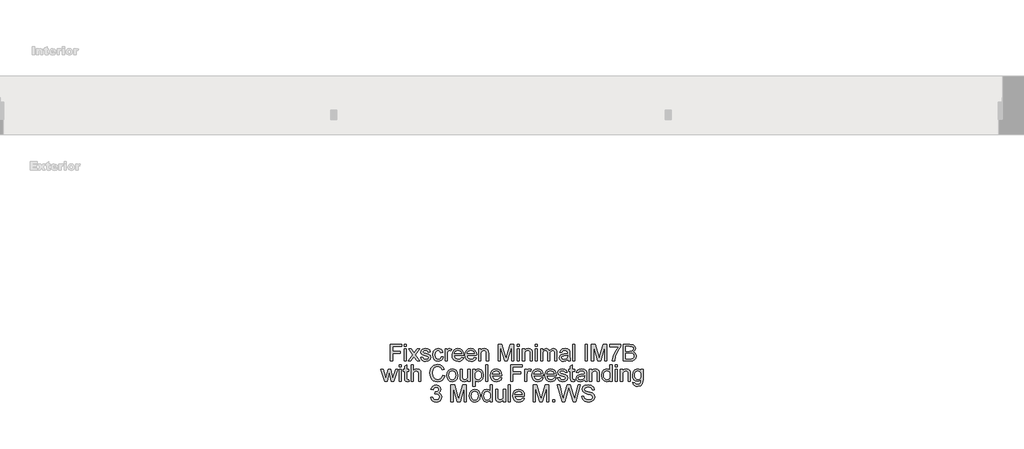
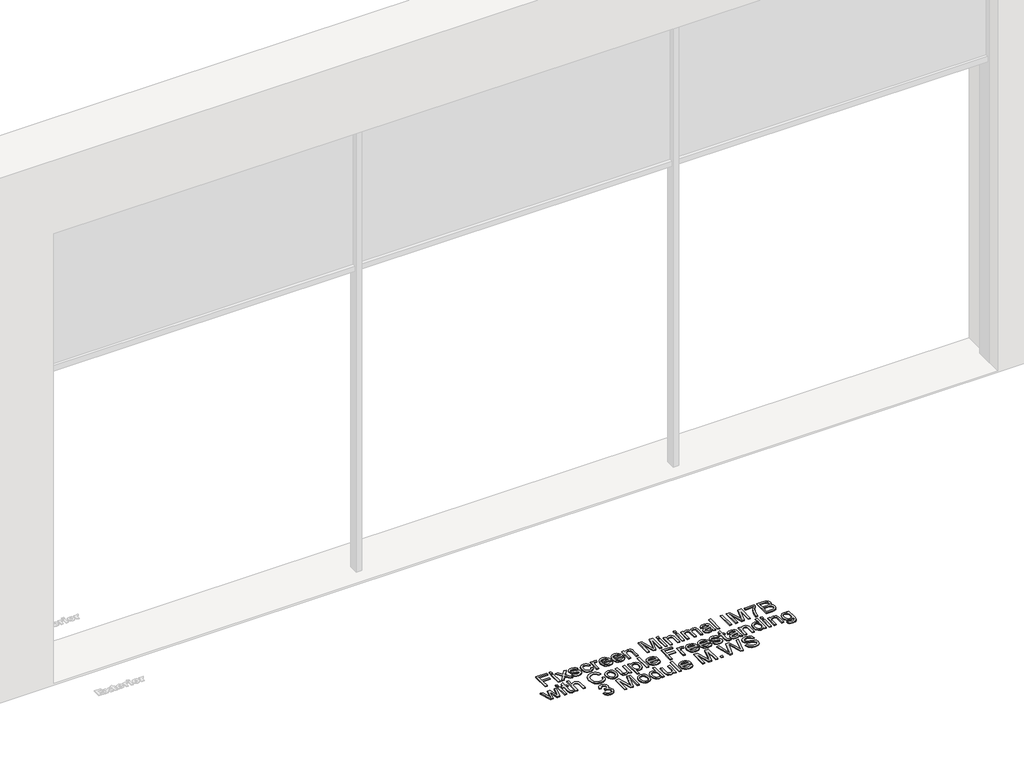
# One storey, part 4 of 14: 1 proxy.
"""IFC4 building model written with IfcOpenShell, lengths in millimetres."""

from ifc_helpers import new_model, si_unit, origin, origin_with_axes, place, context, project, spatial, polyline, outline, extrude, element, save

model = new_model("IFC4")

# Units and contexts
model_context = context("Model", 3, world=origin())
ifc_project = project(units=[si_unit("LENGTHUNIT", "METRE", prefix="MILLI")], contexts=[model_context])

# Site, building, storey
site = spatial("IfcSite", under=ifc_project)
building = spatial("IfcBuilding", under=site)
storey = spatial("IfcBuildingStorey", under=building, Name="Fixscreen Mini CF Overview Top", Elevation=0.0)

# Proxy
placement = place(None, origin())
element("IfcBuildingElementProxy", 1, Name="100mm Arial", ObjectType="100mm Arial", at=placement, inside=storey, context=model_context, shape_type="SweptSolid", body=[
    extrude(outline(polyline([(294.8320577, -2523.9021098), (294.8320577, -2423.4457997), (362.3261411, -2423.4457997), (362.3261411, -2436.0028384), (307.3890965, -2436.0028384), (307.3890965, -2465.8258055), (354.4779918, -2465.8258055), (354.4779918, -2478.3828443), (307.3890965, -2478.3828443), (307.3890965, -2523.9021098), (294.8320577, -2523.9021098)])), origin_with_axes(), (0.0, 0.0, 1.0), 5.0),
    extrude(outline(polyline([(378.0224395, -2523.9021098), (378.0224395, -2450.129507), (390.5794783, -2450.129507), (390.5794783, -2523.9021098), (378.0224395, -2523.9021098)])), origin_with_axes(), (0.0, 0.0, 1.0), 5.0),
    extrude(outline(polyline([(378.0224395, -2436.0028384), (378.0224395, -2423.4457997), (390.5794783, -2423.4457997), (390.5794783, -2436.0028384), (378.0224395, -2436.0028384)])), origin_with_axes(), (0.0, 0.0, 1.0), 5.0),
    extrude(outline(polyline([(401.5668872, -2523.9021098), (428.3977474, -2486.8196047), (403.1365171, -2450.129507), (418.2442043, -2450.129507), (430.4333611, -2467.7878428), (436.1232693, -2476.1265014), (441.052888, -2469.3084217), (454.934302, -2450.129507), (470.0419893, -2450.129507), (443.5054347, -2486.8196047), (469.0609706, -2523.9021098), (453.9532833, -2523.9021098), (438.5758159, -2501.6084609), (435.7553873, -2497.5372335), (416.6745745, -2523.9021098), (401.5668872, -2523.9021098)])), origin_with_axes(), (0.0, 0.0, 1.0), 5.0),
    extrude(outline(polyline([(475.33949, -2501.927292), (487.8965288, -2500.3576621), (493.7090643, -2509.6773393), (507.0263925, -2512.9147009), (519.8286859, -2509.9471195), (523.9980152, -2502.981887), (519.8041605, -2497.3410298), (506.8792397, -2493.7603117), (487.9701052, -2487.6166824), (479.7172857, -2480.4429835), (476.9091198, -2470.3139659), (479.1654627, -2460.9575004), (485.3213548, -2453.808327), (493.3043941, -2450.0927188), (504.107862, -2448.5598772), (519.3872275, -2451.0246866), (529.0993122, -2457.6956134), (533.4157943, -2468.9650652), (520.8587555, -2470.534695), (516.1376033, -2463.6062508), (505.0888807, -2461.116916), (493.0714022, -2463.4958862), (489.4661586, -2469.0386416), (490.9622121, -2472.6929361), (495.6465761, -2475.4643138), (506.4623068, -2478.1375896), (524.8931947, -2484.048227), (533.4525825, -2490.7436793), (536.555054, -2501.6575118), (532.9130222, -2513.6749903), (522.4038599, -2522.3937936), (506.8547142, -2525.4717397), (494.1934422, -2523.9879489), (484.9534728, -2519.5365768), (478.785318, -2512.1666742), (475.33949, -2501.927292)])), origin_with_axes(), (0.0, 0.0, 1.0), 5.0),
    extrude(outline(polyline([(597.770618, -2497.2184024), (610.3276568, -2498.7880323), (606.8266464, -2509.9563165), (600.2476901, -2518.3961426), (591.2100557, -2523.7028404), (580.3330114, -2525.4717397), (566.9758293, -2523.0038646), (556.5310463, -2515.6002395), (549.7896088, -2503.5858266), (547.5424629, -2487.2855886), (551.3806984, -2466.4266794), (563.0793458, -2453.0235121), (580.1613332, -2448.5598772), (590.771663, -2450.0927188), (599.2544087, -2454.6912438), (605.33979, -2462.1101974), (608.7580269, -2472.1043249), (596.2009881, -2473.6739547), (590.3761899, -2464.2684384), (580.259435, -2461.116916), (572.1445713, -2462.6681517), (565.7035707, -2467.321859), (561.5005189, -2475.3294237), (560.0995017, -2486.942232), (561.4698621, -2498.7113902), (565.5809434, -2506.7465461), (571.905448, -2511.3726622), (579.9160785, -2512.9147009), (591.749616, -2509.0642027), (597.770618, -2497.2184024)])), origin_with_axes(), (0.0, 0.0, 1.0), 5.0),
    extrude(outline(polyline([(621.3150657, -2523.9021098), (621.3150657, -2450.129507), (632.3024746, -2450.129507), (632.3024746, -2461.0433396), (640.1015729, -2450.9878984), (647.9497221, -2448.5598772), (660.5558118, -2452.4349009), (656.3619571, -2463.6920899), (647.5327892, -2461.116916), (640.4326667, -2463.5939881), (635.9077182, -2470.4611186), (633.8721044, -2485.1273475), (633.8721044, -2523.9021098), (621.3150657, -2523.9021098)])), origin_with_axes(), (0.0, 0.0, 1.0), 5.0),
    extrude(outline(polyline([(720.0545932, -2501.927292), (732.3663773, -2503.4969218), (727.9303336, -2512.7736795), (720.8516708, -2519.7082551), (711.2898046, -2524.0308685), (699.4041505, -2525.4717397), (684.6704766, -2522.9854705), (673.3335798, -2515.5266631), (666.1046986, -2503.5796953), (663.6950715, -2487.6289451), (666.1292241, -2471.1417003), (673.4316817, -2458.8115221), (684.6152943, -2451.1227884), (698.692912, -2448.5598772), (712.332137, -2451.1166571), (723.2306411, -2458.7869967), (730.3767488, -2471.0926494), (732.7587848, -2487.5553687), (732.6852084, -2490.939883), (676.2521103, -2490.939883), (678.4256797, -2500.339268), (683.4748601, -2507.2493182), (690.7619893, -2511.4983552), (699.6494052, -2512.9147009), (711.9611893, -2510.290476), (720.0545932, -2501.927292)]), holes=[polyline([(676.2521103, -2478.3828443), (720.201746, -2478.3828443), (715.1740254, -2467.0030279), (707.8531737, -2462.588444), (698.6438611, -2461.116916), (683.1805545, -2465.8135428), (678.3153151, -2471.3041816), (676.2521103, -2478.3828443)])]), origin_with_axes(), (0.0, 0.0, 1.0), 5.0),
    extrude(outline(polyline([(796.9664556, -2501.927292), (809.2782397, -2503.4969218), (804.842196, -2512.7736795), (797.7635333, -2519.7082551), (788.2016671, -2524.0308685), (776.316013, -2525.4717397), (761.5823391, -2522.9854705), (750.2454423, -2515.5266631), (743.016561, -2503.5796953), (740.606934, -2487.6289451), (743.0410865, -2471.1417003), (750.3435441, -2458.8115221), (761.5271568, -2451.1227884), (775.6047745, -2448.5598772), (789.2439994, -2451.1166571), (800.1425035, -2458.7869967), (807.2886113, -2471.0926494), (809.6706472, -2487.5553687), (809.5970708, -2490.939883), (753.1639728, -2490.939883), (755.3375422, -2500.339268), (760.3867226, -2507.2493182), (767.6738518, -2511.4983552), (776.5612676, -2512.9147009), (788.8730517, -2510.290476), (796.9664556, -2501.927292)]), holes=[polyline([(753.1639728, -2478.3828443), (797.1136084, -2478.3828443), (792.0858878, -2467.0030279), (784.7650361, -2462.588444), (775.5557235, -2461.116916), (760.092417, -2465.8135428), (755.2271776, -2471.3041816), (753.1639728, -2478.3828443)])]), origin_with_axes(), (0.0, 0.0, 1.0), 5.0),
    extrude(outline(polyline([(822.227686, -2523.9021098), (822.227686, -2450.129507), (834.7847247, -2450.129507), (834.7847247, -2460.4302029), (844.3864448, -2451.5274586), (857.4953066, -2448.5598772), (869.3533696, -2450.9511102), (877.4467735, -2457.2296296), (881.2114325, -2466.4634676), (881.8736201, -2478.6035735), (881.8736201, -2523.9021098), (869.3165814, -2523.9021098), (869.3165814, -2480.2958307), (867.8695788, -2469.1857944), (862.7560191, -2463.3119452), (854.1353177, -2461.116916), (840.5114211, -2466.0465347), (836.2163988, -2473.1895768), (834.7847247, -2484.7594655), (834.7847247, -2523.9021098), (822.227686, -2523.9021098)])), origin_with_axes(), (0.0, 0.0, 1.0), 5.0),
    extrude(outline(polyline([(939.9499244, -2523.9021098), (939.9499244, -2423.4457997), (961.5568603, -2423.4457997), (982.1092011, -2494.250821), (986.2540049, -2509.0396772), (990.7421652, -2493.0245477), (1010.9511495, -2423.4457997), (1032.5580854, -2423.4457997), (1032.5580854, -2523.9021098), (1020.0010466, -2523.9021098), (1020.0010466, -2436.0028384), (994.7643417, -2523.9021098), (977.7436681, -2523.9021098), (952.5069632, -2436.0028384), (952.5069632, -2523.9021098), (939.9499244, -2523.9021098)])), origin_with_axes(), (0.0, 0.0, 1.0), 5.0),
    extrude(outline(polyline([(1052.9632734, -2436.0028384), (1052.9632734, -2423.4457997), (1065.5203121, -2423.4457997), (1065.5203121, -2436.0028384), (1052.9632734, -2436.0028384)])), origin_with_axes(), (0.0, 0.0, 1.0), 5.0),
    extrude(outline(polyline([(1052.9632734, -2523.9021098), (1052.9632734, -2450.129507), (1065.5203121, -2450.129507), (1065.5203121, -2523.9021098), (1052.9632734, -2523.9021098)])), origin_with_axes(), (0.0, 0.0, 1.0), 5.0),
    extrude(outline(polyline([(1084.3558703, -2523.9021098), (1084.3558703, -2450.129507), (1096.912909, -2450.129507), (1096.912909, -2460.4302029), (1106.5146291, -2451.5274586), (1119.6234909, -2448.5598772), (1131.4815539, -2450.9511102), (1139.5749578, -2457.2296296), (1143.3396168, -2466.4634676), (1144.0018044, -2478.6035735), (1144.0018044, -2523.9021098), (1131.4447657, -2523.9021098), (1131.4447657, -2480.2958307), (1129.9977631, -2469.1857944), (1124.8842034, -2463.3119452), (1116.263502, -2461.116916), (1102.6396054, -2466.0465347), (1098.3445831, -2473.1895768), (1096.912909, -2484.7594655), (1096.912909, -2523.9021098), (1084.3558703, -2523.9021098)])), origin_with_axes(), (0.0, 0.0, 1.0), 5.0),
    extrude(outline(polyline([(1161.2677327, -2523.9021098), (1161.2677327, -2450.129507), (1173.8247715, -2450.129507), (1173.8247715, -2523.9021098), (1161.2677327, -2523.9021098)])), origin_with_axes(), (0.0, 0.0, 1.0), 5.0),
    extrude(outline(polyline([(1161.2677327, -2436.0028384), (1161.2677327, -2423.4457997), (1173.8247715, -2423.4457997), (1173.8247715, -2436.0028384), (1161.2677327, -2436.0028384)])), origin_with_axes(), (0.0, 0.0, 1.0), 5.0),
    extrude(outline(polyline([(1192.6603297, -2523.9021098), (1192.6603297, -2450.129507), (1205.2173684, -2450.129507), (1205.2173684, -2462.2696129), (1213.8503326, -2452.3245363), (1226.1375912, -2448.5598772), (1238.7191555, -2452.3981127), (1245.635337, -2463.1525297), (1255.4332608, -2452.2080403), (1267.8063585, -2448.5598772), (1277.2455974, -2450.0773904), (1284.2261583, -2454.6299301), (1288.5395746, -2462.3401236), (1289.9773801, -2473.3305982), (1289.9773801, -2523.9021098), (1277.4203413, -2523.9021098), (1277.4203413, -2478.7262008), (1276.2553817, -2468.2415639), (1272.0370015, -2463.0789533), (1264.8633026, -2461.116916), (1252.5147303, -2466.1446366), (1248.8267133, -2472.6868047), (1247.5973743, -2482.257868), (1247.5973743, -2523.9021098), (1235.0403355, -2523.9021098), (1235.0403355, -2477.3282492), (1232.1340677, -2465.1636179), (1222.6059241, -2461.116916), (1213.3107723, -2463.8147173), (1207.1303548, -2471.7119174), (1205.2173684, -2486.6969774), (1205.2173684, -2523.9021098), (1192.6603297, -2523.9021098)])), origin_with_axes(), (0.0, 0.0, 1.0), 5.0),
    extrude(outline(polyline([(1355.9018336, -2514.4843307), (1343.7249396, -2522.9946676), (1330.2727213, -2525.4717397), (1319.7788874, -2523.9818176), (1312.0380371, -2519.5120513), (1307.2647682, -2512.7246285), (1305.6736786, -2504.2817367), (1308.0771743, -2494.3489229), (1314.3924819, -2487.1384358), (1323.1848615, -2483.0181574), (1334.0496431, -2481.1296965), (1355.8282572, -2476.8132144), (1355.9018336, -2474.0173113), (1352.4437429, -2464.746685), (1338.5623289, -2461.116916), (1325.8581374, -2463.5326744), (1319.8003472, -2472.1043249), (1307.2433084, -2470.534695), (1312.6756992, -2458.2719619), (1323.6140572, -2451.0860002), (1340.1810097, -2448.5598772), (1355.3990616, -2450.7916946), (1363.9952375, -2456.3957637), (1367.8457358, -2464.9183633), (1368.4588724, -2475.9057722), (1368.4588724, -2491.5284942), (1369.0965345, -2513.3438966), (1371.5981321, -2523.9021098), (1359.0410933, -2523.9021098), (1355.9018336, -2514.4843307)]), holes=[polyline([(1355.9018336, -2489.3702532), (1335.6437984, -2493.2207514), (1324.8403305, -2495.2563651), (1319.9475, -2498.5673031), (1318.2307173, -2503.39882), (1321.970851, -2510.1923741), (1332.9459971, -2512.9147009), (1345.6501887, -2509.9103313), (1353.8416945, -2502.6385305), (1355.8282572, -2492.9264458), (1355.9018336, -2489.3702532)])]), origin_with_axes(), (0.0, 0.0, 1.0), 5.0),
    extrude(outline(polyline([(1385.7248007, -2523.9021098), (1385.7248007, -2423.4457997), (1398.2818395, -2423.4457997), (1398.2818395, -2523.9021098), (1385.7248007, -2523.9021098)])), origin_with_axes(), (0.0, 0.0, 1.0), 5.0),
    extrude(outline(polyline([(1459.4974035, -2523.9021098), (1459.4974035, -2423.4457997), (1472.0544423, -2423.4457997), (1472.0544423, -2523.9021098), (1459.4974035, -2523.9021098)])), origin_with_axes(), (0.0, 0.0, 1.0), 5.0),
    extrude(outline(polyline([(1497.1685198, -2523.9021098), (1497.1685198, -2423.4457997), (1518.7754556, -2423.4457997), (1539.3277964, -2494.250821), (1543.4726003, -2509.0396772), (1547.9607606, -2493.0245477), (1568.1697449, -2423.4457997), (1589.7766807, -2423.4457997), (1589.7766807, -2523.9021098), (1577.2196419, -2523.9021098), (1577.2196419, -2436.0028384), (1551.9829371, -2523.9021098), (1534.9622634, -2523.9021098), (1509.7255586, -2436.0028384), (1509.7255586, -2523.9021098), (1497.1685198, -2523.9021098)])), origin_with_axes(), (0.0, 0.0, 1.0), 5.0),
    extrude(outline(polyline([(1607.042609, -2437.5724683), (1607.042609, -2425.0154295), (1672.9670626, -2425.0154295), (1672.9670626, -2435.1689726), (1654.2663945, -2462.1837738), (1639.9557849, -2496.6052658), (1635.2959463, -2523.9021098), (1622.7389075, -2523.9021098), (1627.7298399, -2495.5751962), (1641.4273128, -2463.5571999), (1660.4100238, -2437.5724683), (1607.042609, -2437.5724683)])), origin_with_axes(), (0.0, 0.0, 1.0), 5.0),
    extrude(outline(polyline([(1688.663361, -2523.9021098), (1688.663361, -2423.4457997), (1726.9966649, -2423.4457997), (1745.7709094, -2426.4011184), (1756.8564202, -2435.4878036), (1760.8663339, -2448.339148), (1757.4940823, -2460.0745837), (1747.303751, -2468.9650652), (1759.6768488, -2478.3337933), (1764.0055936, -2493.9565154), (1761.0502749, -2507.4577846), (1753.7294232, -2517.0717674), (1742.803328, -2522.1730644), (1726.7023593, -2523.9021098), (1688.663361, -2523.9021098)]), holes=[polyline([(1701.2203998, -2464.2561757), (1724.1517108, -2464.2561757), (1737.5426154, -2463.1770551), (1745.5992311, -2458.5294793), (1748.3092952, -2450.3502362), (1745.7831721, -2442.1587305), (1738.5481596, -2437.3149509), (1722.4104027, -2436.0028384), (1701.2203998, -2436.0028384), (1701.2203998, -2464.2561757)]), polyline([(1701.2203998, -2511.345071), (1726.9721394, -2511.345071), (1736.2918167, -2510.8545617), (1744.1767541, -2508.1199722), (1749.4006784, -2502.5404286), (1751.4485549, -2494.0791427), (1749.0450592, -2484.3180071), (1741.2582236, -2478.4932089), (1725.7458661, -2476.8132144), (1701.2203998, -2476.8132144), (1701.2203998, -2511.345071)])]), origin_with_axes(), (0.0, 0.0, 1.0), 5.0),
    extrude(outline(polyline([(260.7661849, -2645.8769277), (238.3253832, -2572.1043249), (251.3729313, -2572.1043249), (264.1016484, -2615.1465183), (267.9030956, -2630.5239857), (271.0178299, -2615.7106041), (281.1468475, -2572.1043249), (296.1073819, -2572.1043249), (306.1873486, -2615.5879767), (308.9587263, -2629.0034068), (312.9318519, -2614.8522127), (325.6850944, -2572.1043249), (338.7816934, -2572.1043249), (316.1692134, -2645.8769277), (300.9879497, -2645.8769277), (291.3494415, -2602.614005), (288.5535383, -2589.1249985), (276.1191269, -2645.8769277), (260.7661849, -2645.8769277)])), origin_with_axes(), (0.0, 0.0, 1.0), 5.0),
    extrude(outline(polyline([(347.4146575, -2645.8769277), (347.4146575, -2572.1043249), (359.9716963, -2572.1043249), (359.9716963, -2645.8769277), (347.4146575, -2645.8769277)])), origin_with_axes(), (0.0, 0.0, 1.0), 5.0),
    extrude(outline(polyline([(347.4146575, -2557.9776563), (347.4146575, -2545.4206175), (359.9716963, -2545.4206175), (359.9716963, -2557.9776563), (347.4146575, -2557.9776563)])), origin_with_axes(), (0.0, 0.0, 1.0), 5.0),
    extrude(outline(polyline([(405.4909618, -2635.4045535), (407.0605917, -2646.2448097), (397.6673381, -2647.4465575), (387.145913, -2645.3618929), (381.8974632, -2639.8927139), (380.3768843, -2625.6434179), (380.3768843, -2584.6613637), (370.9591052, -2584.6613637), (370.9591052, -2572.1043249), (380.3768843, -2572.1043249), (380.3768843, -2554.176209), (392.9339231, -2546.7940436), (392.9339231, -2572.1043249), (405.4909618, -2572.1043249), (405.4909618, -2584.6613637), (392.9339231, -2584.6613637), (392.9339231, -2625.2755359), (393.5961107, -2631.750259), (395.742089, -2634.0433901), (400.0217828, -2634.8895187), (405.4909618, -2635.4045535)])), origin_with_axes(), (0.0, 0.0, 1.0), 5.0),
    extrude(outline(polyline([(418.0480006, -2645.8769277), (418.0480006, -2545.4206175), (430.6050394, -2545.4206175), (430.6050394, -2582.3559698), (440.3968318, -2573.4900137), (452.4572299, -2570.534695), (466.559373, -2573.7597939), (475.1187608, -2582.6748009), (477.6939348, -2599.1804397), (477.6939348, -2645.8769277), (465.136896, -2645.8769277), (465.136896, -2600.4802895), (461.139245, -2587.2365376), (449.8084795, -2583.0917338), (439.5200464, -2585.887637), (432.6529158, -2593.4660061), (430.6050394, -2606.6852324), (430.6050394, -2645.8769277), (418.0480006, -2645.8769277)])), origin_with_axes(), (0.0, 0.0, 1.0), 5.0),
    extrude(outline(polyline([(606.4035821, -2610.1678487), (618.9606209, -2613.4052102), (613.1664795, -2628.0377166), (604.0736628, -2638.7277542), (592.1297607, -2645.2668567), (577.7823629, -2647.4465575), (563.2173016, -2645.7972199), (551.6504785, -2640.8492071), (542.7845224, -2632.7741973), (536.3220621, -2621.7438688), (531.0613495, -2594.8884831), (532.5482059, -2580.2406484), (537.0087751, -2567.5916391), (544.2100652, -2557.3430598), (553.9190842, -2549.8965151), (565.4337906, -2545.3623695), (578.052143, -2543.8509877), (591.8201267, -2545.8068936), (603.2030088, -2551.6746114), (611.84517, -2561.0923905), (617.3909911, -2573.6984802), (604.8339523, -2576.6905871), (594.5332564, -2561.251806), (577.5616337, -2556.4080264), (557.9167352, -2561.7791036), (546.8189617, -2576.2000778), (543.6183883, -2594.8639577), (547.4075728, -2616.495419), (559.2043222, -2630.3155193), (576.5315641, -2634.8895187), (587.0131353, -2633.3321516), (595.747267, -2628.6600503), (602.3415518, -2620.9222657), (606.4035821, -2610.1678487)])), origin_with_axes(), (0.0, 0.0, 1.0), 5.0),
    extrude(outline(polyline([(631.5176597, -2608.9906263), (634.2338551, -2591.2035318), (642.3824413, -2578.7016753), (652.4501452, -2572.5764401), (664.5044119, -2570.534695), (677.6960471, -2573.0209642), (688.2328006, -2580.4797717), (695.1397851, -2592.3225062), (697.4421132, -2607.9605567), (693.3708858, -2630.3032565), (681.5128228, -2642.9461344), (664.5044119, -2647.4465575), (651.1533612, -2644.9694854), (640.6288704, -2637.5382691), (633.7954624, -2625.4472142), (631.5176597, -2608.9906263)]), holes=[polyline([(644.0746984, -2608.9661008), (645.5278323, -2620.3305888), (649.887234, -2628.4270584), (656.4477962, -2633.2739036), (664.5044119, -2634.8895187), (672.5242394, -2633.2647066), (679.0725389, -2628.3902702), (683.4319406, -2620.1865017), (684.8850744, -2608.5736933), (683.4227435, -2597.5402992), (679.0357507, -2589.5541942), (672.4782542, -2584.7073489), (664.5044119, -2583.0917338), (656.4477962, -2584.7012175), (649.887234, -2589.5296687), (645.5278323, -2597.6077442), (644.0746984, -2608.9661008)])]), origin_with_axes(), (0.0, 0.0, 1.0), 5.0),
    extrude(outline(polyline([(758.6576772, -2645.8769277), (758.6576772, -2633.1972616), (748.8229652, -2643.8842335), (735.9961463, -2647.4465575), (724.1871343, -2644.9449599), (716.0446794, -2638.6664406), (712.3045458, -2629.4203397), (711.5687818, -2617.7462178), (711.5687818, -2572.1043249), (724.1258206, -2572.1043249), (724.1258206, -2611.8355804), (724.8861101, -2624.6378738), (729.852517, -2632.1549292), (739.2089824, -2634.8895187), (749.6936193, -2632.0936156), (756.6220635, -2624.4784583), (758.6576772, -2610.4866797), (758.6576772, -2572.1043249), (771.214716, -2572.1043249), (771.214716, -2645.8769277), (758.6576772, -2645.8769277)])), origin_with_axes(), (0.0, 0.0, 1.0), 5.0),
    extrude(outline(polyline([(788.4806443, -2674.1302649), (788.4806443, -2572.1043249), (801.0376831, -2572.1043249), (801.0376831, -2584.416109), (809.7196981, -2574.0050485), (821.4428711, -2570.534695), (837.3598987, -2575.3907374), (847.7586964, -2589.0759476), (851.2658381, -2608.4265406), (847.3049753, -2628.7704149), (835.8025316, -2642.6273034), (819.9222921, -2647.4465575), (808.9961969, -2644.2214587), (801.0376831, -2636.0667411), (801.0376831, -2674.1302649), (788.4806443, -2674.1302649)]), holes=[polyline([(801.0376831, -2609.5792375), (802.3957808, -2620.8364265), (806.4700739, -2628.7091012), (812.4818788, -2633.3444144), (819.652512, -2634.8895187), (826.9396412, -2633.2892321), (833.1047303, -2628.488372), (837.3077821, -2620.3275231), (838.7087994, -2608.6472697), (837.3415046, -2597.4513944), (833.2396204, -2589.4683551), (827.2370125, -2584.6858891), (820.1675468, -2583.0917338), (813.07049, -2584.7870567), (806.8379558, -2589.8730253), (802.4877513, -2598.190224), (801.0376831, -2609.5792375)])]), origin_with_axes(), (0.0, 0.0, 1.0), 5.0),
    extrude(outline(polyline([(865.3925067, -2645.8769277), (865.3925067, -2545.4206175), (877.9495455, -2545.4206175), (877.9495455, -2645.8769277), (865.3925067, -2645.8769277)])), origin_with_axes(), (0.0, 0.0, 1.0), 5.0),
    extrude(outline(polyline([(948.4357358, -2623.9021098), (960.7475199, -2625.4717397), (956.3114762, -2634.7484973), (949.2328134, -2641.6830729), (939.6709473, -2646.0056864), (927.7852931, -2647.4465575), (913.0516192, -2644.9602884), (901.7147224, -2637.5014809), (894.4858412, -2625.5545131), (892.0762141, -2609.6037629), (894.5103667, -2593.1165182), (901.8128243, -2580.78634), (912.9964369, -2573.0976063), (927.0740546, -2570.534695), (940.7132796, -2573.0914749), (951.6117837, -2580.7618145), (958.7578914, -2593.0674673), (961.1399274, -2609.5301865), (961.066351, -2612.9147009), (904.6332529, -2612.9147009), (906.8068224, -2622.3140859), (911.8560027, -2629.224136), (919.1431319, -2633.4731731), (928.0305478, -2634.8895187), (940.3423319, -2632.2652938), (948.4357358, -2623.9021098)]), holes=[polyline([(904.6332529, -2600.3576621), (948.5828886, -2600.3576621), (943.555168, -2588.9778457), (936.2343163, -2584.5632618), (927.0250037, -2583.0917338), (911.5616971, -2587.7883606), (906.6964578, -2593.2789994), (904.6332529, -2600.3576621)])]), origin_with_axes(), (0.0, 0.0, 1.0), 5.0),
    extrude(outline(polyline([(1014.5073421, -2645.8769277), (1014.5073421, -2545.4206175), (1082.0014255, -2545.4206175), (1082.0014255, -2557.9776563), (1027.0643809, -2557.9776563), (1027.0643809, -2587.8006234), (1074.1532763, -2587.8006234), (1074.1532763, -2600.3576621), (1027.0643809, -2600.3576621), (1027.0643809, -2645.8769277), (1014.5073421, -2645.8769277)])), origin_with_axes(), (0.0, 0.0, 1.0), 5.0),
    extrude(outline(polyline([(1097.697724, -2645.8769277), (1097.697724, -2572.1043249), (1108.6851329, -2572.1043249), (1108.6851329, -2583.0181574), (1116.4842312, -2572.9627162), (1124.3323804, -2570.534695), (1136.9384701, -2574.4097187), (1132.7446154, -2585.6669078), (1123.9154475, -2583.0917338), (1116.815325, -2585.5688059), (1112.2903764, -2592.4359365), (1110.2547627, -2607.1021654), (1110.2547627, -2645.8769277), (1097.697724, -2645.8769277)])), origin_with_axes(), (0.0, 0.0, 1.0), 5.0),
    extrude(outline(polyline([(1196.4372515, -2623.9021098), (1208.7490356, -2625.4717397), (1204.3129919, -2634.7484973), (1197.2343291, -2641.6830729), (1187.6724629, -2646.0056864), (1175.7868088, -2647.4465575), (1161.0531349, -2644.9602884), (1149.7162381, -2637.5014809), (1142.4873569, -2625.5545131), (1140.0777298, -2609.6037629), (1142.5118823, -2593.1165182), (1149.8143399, -2580.78634), (1160.9979526, -2573.0976063), (1175.0755703, -2570.534695), (1188.7147953, -2573.0914749), (1199.6132994, -2580.7618145), (1206.7594071, -2593.0674673), (1209.141443, -2609.5301865), (1209.0678666, -2612.9147009), (1152.6347686, -2612.9147009), (1154.808338, -2622.3140859), (1159.8575184, -2629.224136), (1167.1446476, -2633.4731731), (1176.0320635, -2634.8895187), (1188.3438476, -2632.2652938), (1196.4372515, -2623.9021098)]), holes=[polyline([(1152.6347686, -2600.3576621), (1196.5844043, -2600.3576621), (1191.5566837, -2588.9778457), (1184.235832, -2584.5632618), (1175.0265194, -2583.0917338), (1159.5632128, -2587.7883606), (1154.6979734, -2593.2789994), (1152.6347686, -2600.3576621)])]), origin_with_axes(), (0.0, 0.0, 1.0), 5.0),
    extrude(outline(polyline([(1273.3491139, -2623.9021098), (1285.660898, -2625.4717397), (1281.2248543, -2634.7484973), (1274.1461916, -2641.6830729), (1264.5843254, -2646.0056864), (1252.6986713, -2647.4465575), (1237.9649974, -2644.9602884), (1226.6281005, -2637.5014809), (1219.3992193, -2625.5545131), (1216.9895923, -2609.6037629), (1219.4237448, -2593.1165182), (1226.7262024, -2580.78634), (1237.9098151, -2573.0976063), (1251.9874327, -2570.534695), (1265.6266577, -2573.0914749), (1276.5251618, -2580.7618145), (1283.6712696, -2593.0674673), (1286.0533055, -2609.5301865), (1285.9797291, -2612.9147009), (1229.546631, -2612.9147009), (1231.7202005, -2622.3140859), (1236.7693809, -2629.224136), (1244.0565101, -2633.4731731), (1252.9439259, -2634.8895187), (1265.25571, -2632.2652938), (1273.3491139, -2623.9021098)]), holes=[polyline([(1229.546631, -2600.3576621), (1273.4962667, -2600.3576621), (1268.4685461, -2588.9778457), (1261.1476944, -2584.5632618), (1251.9383818, -2583.0917338), (1236.4750753, -2587.7883606), (1231.6098359, -2593.2789994), (1229.546631, -2600.3576621)])]), origin_with_axes(), (0.0, 0.0, 1.0), 5.0),
    extrude(outline(polyline([(1293.9014547, -2623.9021098), (1306.4584935, -2622.33248), (1312.271029, -2631.6521572), (1325.5883572, -2634.8895187), (1338.3906507, -2631.9219373), (1342.55998, -2624.9567049), (1338.3661252, -2619.3158476), (1325.4412044, -2615.7351295), (1306.5320699, -2609.5915002), (1298.2792505, -2602.4178013), (1295.4710846, -2592.2887837), (1297.7274275, -2582.9323183), (1303.8833195, -2575.7831448), (1311.8663588, -2572.0675367), (1322.6698268, -2570.534695), (1337.9491923, -2572.9995044), (1347.661277, -2579.6704313), (1351.977759, -2590.939883), (1339.4207203, -2592.5095129), (1334.699568, -2585.5810687), (1323.6508454, -2583.0917338), (1311.6333669, -2585.4707041), (1308.0281233, -2591.0134594), (1309.5241768, -2594.6677539), (1314.2085409, -2597.4391316), (1325.0242715, -2600.1124075), (1343.4551595, -2606.0230448), (1352.0145472, -2612.7184972), (1355.1170187, -2623.6323297), (1351.474987, -2635.6498082), (1340.9658246, -2644.3686115), (1325.416679, -2647.4465575), (1312.755407, -2645.9627668), (1303.5154375, -2641.5113947), (1297.3472827, -2634.141492), (1293.9014547, -2623.9021098)])), origin_with_axes(), (0.0, 0.0, 1.0), 5.0),
    extrude(outline(polyline([(1395.9273947, -2635.4045535), (1397.4970246, -2646.2448097), (1388.103771, -2647.4465575), (1377.5823459, -2645.3618929), (1372.3338961, -2639.8927139), (1370.8133172, -2625.6434179), (1370.8133172, -2584.6613637), (1361.3955381, -2584.6613637), (1361.3955381, -2572.1043249), (1370.8133172, -2572.1043249), (1370.8133172, -2554.176209), (1383.370356, -2546.7940436), (1383.370356, -2572.1043249), (1395.9273947, -2572.1043249), (1395.9273947, -2584.6613637), (1383.370356, -2584.6613637), (1383.370356, -2625.2755359), (1384.0325435, -2631.750259), (1386.1785219, -2634.0433901), (1390.4582157, -2634.8895187), (1395.9273947, -2635.4045535)])), origin_with_axes(), (0.0, 0.0, 1.0), 5.0),
    extrude(outline(polyline([(1455.5733289, -2636.4591486), (1443.3964348, -2644.9694854), (1429.9442165, -2647.4465575), (1419.4503826, -2645.9566354), (1411.7095323, -2641.4868692), (1406.9362634, -2634.6994464), (1405.3451738, -2626.2565546), (1407.7486695, -2616.3237407), (1414.0639771, -2609.1132536), (1422.8563568, -2604.9929753), (1433.7211384, -2603.1045144), (1455.4997525, -2598.7880323), (1455.5733289, -2595.9921291), (1452.1152381, -2586.7215028), (1438.2338242, -2583.0917338), (1425.5296326, -2585.5074923), (1419.4718424, -2594.0791427), (1406.9148036, -2592.5095129), (1412.3471944, -2580.2467797), (1423.2855524, -2573.0608181), (1439.8525049, -2570.534695), (1455.0705568, -2572.7665125), (1463.6667328, -2578.3705815), (1467.517231, -2586.8931811), (1468.1303676, -2597.88059), (1468.1303676, -2613.5033121), (1468.7680298, -2635.3187144), (1471.2696273, -2645.8769277), (1458.7125886, -2645.8769277), (1455.5733289, -2636.4591486)]), holes=[polyline([(1455.5733289, -2611.345071), (1435.3152937, -2615.1955693), (1424.5118257, -2617.231183), (1419.6189952, -2620.5421209), (1417.9022126, -2625.3736378), (1421.6423462, -2632.167192), (1432.6174924, -2634.8895187), (1445.3216839, -2631.8851491), (1453.5131897, -2624.6133483), (1455.4997525, -2614.9012637), (1455.5733289, -2611.345071)])]), origin_with_axes(), (0.0, 0.0, 1.0), 5.0),
    extrude(outline(polyline([(1485.3962959, -2645.8769277), (1485.3962959, -2572.1043249), (1497.9533347, -2572.1043249), (1497.9533347, -2582.4050208), (1507.5550548, -2573.5022765), (1520.6639166, -2570.534695), (1532.5219795, -2572.925928), (1540.6153834, -2579.2044474), (1544.3800425, -2588.4382855), (1545.0422301, -2600.5783913), (1545.0422301, -2645.8769277), (1532.4851913, -2645.8769277), (1532.4851913, -2602.2706485), (1531.0381888, -2591.1606122), (1525.9246291, -2585.2867631), (1517.3039277, -2583.0917338), (1503.6800311, -2588.0213526), (1499.3850088, -2595.1643946), (1497.9533347, -2606.7342834), (1497.9533347, -2645.8769277), (1485.3962959, -2645.8769277)])), origin_with_axes(), (0.0, 0.0, 1.0), 5.0),
    extrude(outline(polyline([(1607.8274239, -2645.8769277), (1607.8274239, -2634.0311274), (1599.5194222, -2644.0927), (1588.0353726, -2647.4465575), (1572.4862269, -2642.5905152), (1561.498818, -2629.040195), (1557.5992689, -2609.0642027), (1561.1922497, -2589.0759476), (1571.9589294, -2575.317161), (1587.9863217, -2570.534695), (1599.5623418, -2573.9559976), (1607.8274239, -2582.8464792), (1607.8274239, -2545.4206175), (1620.3844627, -2545.4206175), (1620.3844627, -2645.8769277), (1607.8274239, -2645.8769277)]), holes=[polyline([(1570.1563076, -2609.0151517), (1571.5726533, -2620.3735083), (1575.8216904, -2628.4515838), (1581.9959765, -2633.280035), (1589.1880695, -2634.8895187), (1596.3770968, -2633.3536114), (1602.3950331, -2628.7458894), (1606.4693262, -2620.9805136), (1607.8274239, -2609.9716449), (1606.4448008, -2597.9357723), (1602.2969313, -2589.5909824), (1596.1257108, -2584.716546), (1588.6730347, -2583.0917338), (1581.4073653, -2584.6521666), (1575.4538084, -2589.333465), (1571.4806828, -2597.3747523), (1570.1563076, -2609.0151517)])]), origin_with_axes(), (0.0, 0.0, 1.0), 5.0),
    extrude(outline(polyline([(1639.2200209, -2645.8769277), (1639.2200209, -2572.1043249), (1651.7770596, -2572.1043249), (1651.7770596, -2645.8769277), (1639.2200209, -2645.8769277)])), origin_with_axes(), (0.0, 0.0, 1.0), 5.0),
    extrude(outline(polyline([(1639.2200209, -2557.9776563), (1639.2200209, -2545.4206175), (1651.7770596, -2545.4206175), (1651.7770596, -2557.9776563), (1639.2200209, -2557.9776563)])), origin_with_axes(), (0.0, 0.0, 1.0), 5.0),
    extrude(outline(polyline([(1670.6126178, -2645.8769277), (1670.6126178, -2572.1043249), (1683.1696566, -2572.1043249), (1683.1696566, -2582.4050208), (1692.7713766, -2573.5022765), (1705.8802384, -2570.534695), (1717.7383014, -2572.925928), (1725.8317053, -2579.2044474), (1729.5963643, -2588.4382855), (1730.2585519, -2600.5783913), (1730.2585519, -2645.8769277), (1717.7015132, -2645.8769277), (1717.7015132, -2602.2706485), (1716.2545107, -2591.1606122), (1711.1409509, -2585.2867631), (1702.5202495, -2583.0917338), (1688.8963529, -2588.0213526), (1684.6013307, -2595.1643946), (1683.1696566, -2606.7342834), (1683.1696566, -2645.8769277), (1670.6126178, -2645.8769277)])), origin_with_axes(), (0.0, 0.0, 1.0), 5.0),
    extrude(outline(polyline([(1744.3852206, -2652.155447), (1756.9422593, -2653.7250769), (1761.0134867, -2660.3469528), (1773.2026435, -2663.142856), (1786.0539879, -2659.9790708), (1792.1853545, -2651.100852), (1793.0437458, -2636.4591486), (1784.2023152, -2643.5224829), (1773.4233727, -2645.8769277), (1760.4769922, -2643.1362068), (1750.8231555, -2634.9140442), (1744.8174819, -2622.8597775), (1742.8155907, -2608.6227443), (1746.4085715, -2589.1617867), (1756.8073693, -2575.3907374), (1772.810236, -2570.534695), (1784.0122428, -2573.2815473), (1793.0437458, -2581.522104), (1793.0437458, -2572.1043249), (1805.6007846, -2572.1043249), (1805.6007846, -2635.796961), (1802.1672193, -2660.1875373), (1791.2901749, -2671.5305655), (1772.9573888, -2675.6998947), (1761.2740698, -2674.2314324), (1752.0739543, -2669.8260455), (1746.1725139, -2662.4714713), (1744.3852206, -2652.155447)]), holes=[polyline([(1755.3726295, -2607.764353), (1756.7123331, -2619.2821251), (1760.7314439, -2627.200785), (1766.7739056, -2631.7901129), (1774.1836622, -2633.3198889), (1781.5382364, -2631.79931), (1787.611355, -2627.2375732), (1791.6856481, -2619.4200808), (1793.0437458, -2608.132235), (1791.6457942, -2597.2459936), (1787.4519395, -2589.4070414), (1781.289916, -2584.6705607), (1773.9874584, -2583.0917338), (1766.8168252, -2584.6460352), (1760.8050203, -2589.3089395), (1756.7307272, -2597.0313958), (1755.3726295, -2607.764353)])]), origin_with_axes(), (0.0, 0.0, 1.0), 5.0),
    extrude(outline(polyline([(535.7702391, -2741.1680381), (548.3272778, -2739.5984083), (555.2557221, -2752.8176346), (568.217431, -2756.8643366), (576.8258697, -2755.4725164), (583.4722711, -2751.2970557), (589.1376538, -2737.5137436), (583.521322, -2724.5275092), (569.2475006, -2719.389424), (560.4428582, -2720.7628501), (561.8408098, -2708.2058114), (563.851898, -2708.3529642), (578.101194, -2704.7477206), (582.8468717, -2700.1737211), (584.4287643, -2693.6622098), (579.8425021, -2683.8397605), (568.0212273, -2679.9524741), (556.0527997, -2683.8765487), (549.8969077, -2695.6487726), (537.3398689, -2694.0791427), (541.037083, -2682.8035596), (547.6160393, -2674.3851933), (556.6168855, -2669.1428748), (567.5797689, -2667.3954354), (582.7242444, -2670.8412634), (593.3192458, -2680.2590425), (596.9858031, -2692.9264458), (593.5031868, -2704.5024659), (583.202491, -2712.816599), (596.8877012, -2721.4005122), (601.6946926, -2737.7344728), (599.2911969, -2749.9726805), (592.0807098, -2760.1998), (581.1975341, -2767.1159815), (567.7759726, -2769.4213754), (555.6358668, -2767.4532067), (545.7521039, -2761.5487007), (538.8788419, -2752.5171977), (535.7702391, -2741.1680381)])), origin_with_axes(), (0.0, 0.0, 1.0), 5.0),
    extrude(outline(polyline([(656.6317372, -2767.8517455), (656.6317372, -2667.3954354), (678.2386731, -2667.3954354), (698.7910139, -2738.2004567), (702.9358177, -2752.9893129), (707.423978, -2736.9741834), (727.6329623, -2667.3954354), (749.2398981, -2667.3954354), (749.2398981, -2767.8517455), (736.6828594, -2767.8517455), (736.6828594, -2679.9524741), (711.4461545, -2767.8517455), (694.4254809, -2767.8517455), (669.188776, -2679.9524741), (669.188776, -2767.8517455), (656.6317372, -2767.8517455)])), origin_with_axes(), (0.0, 0.0, 1.0), 5.0),
    extrude(outline(polyline([(766.5058264, -2730.9654441), (769.2220218, -2713.1783497), (777.370608, -2700.6764932), (787.438312, -2694.551258), (799.4925787, -2692.5095129), (812.6842139, -2694.995782), (823.2209674, -2702.4545895), (830.1279518, -2714.2973241), (832.43028, -2729.9353745), (828.3590526, -2752.2780744), (816.5009896, -2764.9209523), (799.4925787, -2769.4213754), (786.1415279, -2766.9443033), (775.6170372, -2759.5130869), (768.7836291, -2747.422032), (766.5058264, -2730.9654441)]), holes=[polyline([(779.0628652, -2730.9409187), (780.5159991, -2742.3054066), (784.8754007, -2750.4018762), (791.435963, -2755.2487215), (799.4925787, -2756.8643366), (807.5124062, -2755.2395244), (814.0607057, -2750.365088), (818.4201073, -2742.1613195), (819.8732412, -2730.5485112), (818.4109103, -2719.515117), (814.0239175, -2711.529012), (807.4664209, -2706.6821668), (799.4925787, -2705.0665517), (791.435963, -2706.6760354), (784.8754007, -2711.5044866), (780.5159991, -2719.5825621), (779.0628652, -2730.9409187)])]), origin_with_axes(), (0.0, 0.0, 1.0), 5.0),
    extrude(outline(polyline([(892.0762141, -2767.8517455), (892.0762141, -2756.0059453), (883.7682124, -2766.0675178), (872.2841628, -2769.4213754), (856.7350171, -2764.565333), (845.7476082, -2751.0150129), (841.8480591, -2731.0390205), (845.4410399, -2711.0507655), (856.2077196, -2697.2919788), (872.2351119, -2692.5095129), (883.811132, -2695.9308154), (892.0762141, -2704.821297), (892.0762141, -2667.3954354), (904.6332529, -2667.3954354), (904.6332529, -2767.8517455), (892.0762141, -2767.8517455)]), holes=[polyline([(854.4050978, -2730.9899696), (855.8214435, -2742.3483262), (860.0704805, -2750.4264017), (866.2447667, -2755.2548529), (873.4368597, -2756.8643366), (880.625887, -2755.3284293), (886.6438233, -2750.7207073), (890.7181164, -2742.9553315), (892.0762141, -2731.9464628), (890.693591, -2719.9105902), (886.5457215, -2711.5658002), (880.374501, -2706.6913638), (872.9218249, -2705.0665517), (865.6561555, -2706.6269845), (859.7025986, -2711.3082828), (855.729473, -2719.3495701), (854.4050978, -2730.9899696)])]), origin_with_axes(), (0.0, 0.0, 1.0), 5.0),
    extrude(outline(polyline([(970.5577064, -2767.8517455), (970.5577064, -2755.1720794), (960.7229944, -2765.8590514), (947.8961755, -2769.4213754), (936.0871635, -2766.9197778), (927.9447087, -2760.6412584), (924.204575, -2751.3951576), (923.4688111, -2739.7210356), (923.4688111, -2694.0791427), (936.0258498, -2694.0791427), (936.0258498, -2733.8103982), (936.7861393, -2746.6126917), (941.7525462, -2754.1297471), (951.1090116, -2756.8643366), (961.5936485, -2754.0684334), (968.5220927, -2746.4532761), (970.5577064, -2732.4614976), (970.5577064, -2694.0791427), (983.1147452, -2694.0791427), (983.1147452, -2767.8517455), (970.5577064, -2767.8517455)])), origin_with_axes(), (0.0, 0.0, 1.0), 5.0),
    extrude(outline(polyline([(1000.3806735, -2767.8517455), (1000.3806735, -2667.3954354), (1012.9377123, -2667.3954354), (1012.9377123, -2767.8517455), (1000.3806735, -2767.8517455)])), origin_with_axes(), (0.0, 0.0, 1.0), 5.0),
    extrude(outline(polyline([(1083.4239026, -2745.8769277), (1095.7356867, -2747.4465575), (1091.2996429, -2756.7233152), (1084.2209802, -2763.6578908), (1074.659114, -2767.9805042), (1062.7734599, -2769.4213754), (1048.039786, -2766.9351062), (1036.7028892, -2759.4762987), (1029.474008, -2747.529331), (1027.0643809, -2731.5785808), (1029.4985334, -2715.091336), (1036.800991, -2702.7611578), (1047.9846037, -2695.0724241), (1062.0622214, -2692.5095129), (1075.7014463, -2695.0662928), (1086.5999504, -2702.7366324), (1093.7460582, -2715.0422851), (1096.1280941, -2731.5050044), (1096.0545177, -2734.8895187), (1039.6214197, -2734.8895187), (1041.7949891, -2744.2889037), (1046.8441695, -2751.1989539), (1054.1312987, -2755.4479909), (1063.0187146, -2756.8643366), (1075.3304987, -2754.2401117), (1083.4239026, -2745.8769277)]), holes=[polyline([(1039.6214197, -2722.33248), (1083.5710554, -2722.33248), (1078.5433348, -2710.9526636), (1071.222483, -2706.5380796), (1062.0131704, -2705.0665517), (1046.5498639, -2709.7631785), (1041.6846245, -2715.2538172), (1039.6214197, -2722.33248)])]), origin_with_axes(), (0.0, 0.0, 1.0), 5.0),
    extrude(outline(polyline([(1149.4955089, -2767.8517455), (1149.4955089, -2667.3954354), (1171.1024447, -2667.3954354), (1191.6547855, -2738.2004567), (1195.7995893, -2752.9893129), (1200.2877497, -2736.9741834), (1220.496734, -2667.3954354), (1242.1036698, -2667.3954354), (1242.1036698, -2767.8517455), (1229.546631, -2767.8517455), (1229.546631, -2679.9524741), (1204.3099262, -2767.8517455), (1187.2892525, -2767.8517455), (1162.0525477, -2679.9524741), (1162.0525477, -2767.8517455), (1149.4955089, -2767.8517455)])), origin_with_axes(), (0.0, 0.0, 1.0), 5.0),
    extrude(outline(polyline([(1265.6481175, -2767.8517455), (1265.6481175, -2755.2947067), (1278.2051563, -2755.2947067), (1278.2051563, -2767.8517455), (1265.6481175, -2767.8517455)])), origin_with_axes(), (0.0, 0.0, 1.0), 5.0),
    extrude(outline(polyline([(1321.2964006, -2767.8517455), (1293.9014547, -2667.3954354), (1306.850901, -2667.3954354), (1322.7434031, -2733.4179908), (1327.6484964, -2753.7986533), (1332.8969462, -2735.7724355), (1352.8116249, -2667.3954354), (1371.4755048, -2667.3954354), (1385.9455299, -2716.9614028), (1396.7122096, -2753.7986533), (1401.4701501, -2734.0066019), (1417.5098051, -2667.3954354), (1430.4592513, -2667.3954354), (1403.03978, -2767.8517455), (1389.6243499, -2767.8517455), (1365.5403419, -2690.3512719), (1362.180353, -2679.5355412), (1358.4034312, -2692.5585638), (1336.4531388, -2767.8517455), (1321.2964006, -2767.8517455)])), origin_with_axes(), (0.0, 0.0, 1.0), 5.0),
    extrude(outline(polyline([(1438.3074006, -2733.3198889), (1450.8644393, -2733.3198889), (1454.9111413, -2745.8891904), (1464.7949042, -2753.8354415), (1479.8535406, -2756.8643366), (1492.9746651, -2754.5712055), (1501.4482137, -2748.2681606), (1504.2318541, -2739.8436629), (1502.1471895, -2732.0077764), (1493.6123272, -2726.3056055), (1475.328592, -2721.5108768), (1455.6469053, -2715.3181966), (1444.9660647, -2705.9739939), (1441.4466603, -2693.4905315), (1445.7999305, -2679.2780238), (1458.5163848, -2669.2471081), (1477.1312138, -2665.8258055), (1496.9968415, -2669.4065236), (1510.2405934, -2679.9279487), (1515.219263, -2695.6487726), (1502.6622243, -2695.6487726), (1500.3568304, -2688.1562426), (1495.549839, -2682.7483773), (1477.6217231, -2678.3828443), (1459.6445563, -2682.6993264), (1454.003699, -2693.1226496), (1458.00135, -2701.8291901), (1478.5046399, -2708.8434735), (1500.7247124, -2715.1465183), (1512.877081, -2725.3245869), (1516.7888929, -2739.5248319), (1512.2884698, -2754.54668), (1499.3390236, -2765.5095635), (1480.3440499, -2769.4213754), (1457.9155109, -2765.2029951), (1443.7275286, -2752.4988036), (1438.3074006, -2733.3198889)])), origin_with_axes(), (0.0, 0.0, 1.0), 5.0),
])

save(model, "model.ifc")
